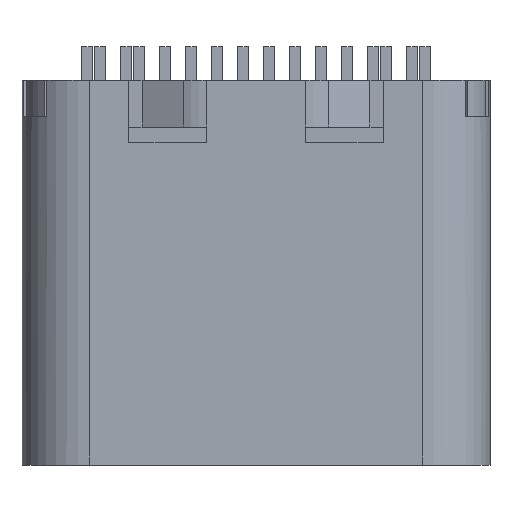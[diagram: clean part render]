
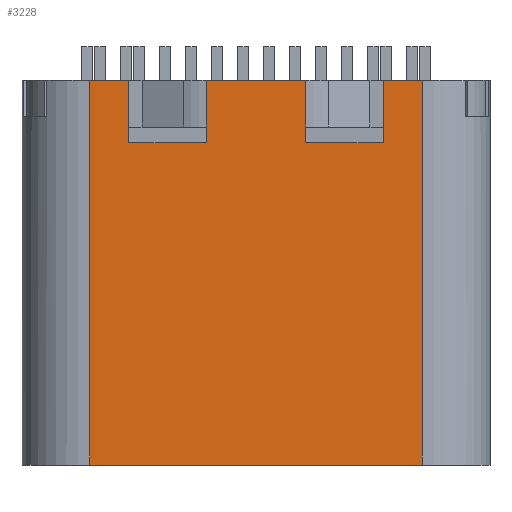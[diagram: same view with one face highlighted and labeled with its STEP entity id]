
A CAD part, top view. The second image highlights one B-rep face of the part: STEP entity #3228.
In plain terms, the highlighted planar face has unit normal (0, 0, 1).
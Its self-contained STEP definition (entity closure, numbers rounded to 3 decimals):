
#2458 = VERTEX_POINT('',#2459);
#2459 = CARTESIAN_POINT('',(-3.2,0.,1.6));
#2466 = EDGE_CURVE('',#2467,#2458,#2469,.T.);
#2467 = VERTEX_POINT('',#2468);
#2468 = CARTESIAN_POINT('',(-2.446,0.,1.6));
#2469 = LINE('',#2470,#2471);
#2470 = CARTESIAN_POINT('',(3.2,0.,1.6));
#2471 = VECTOR('',#2472,1.);
#2472 = DIRECTION('',(-1.,0.,0.));
#2808 = EDGE_CURVE('',#2467,#2809,#2811,.T.);
#2809 = VERTEX_POINT('',#2810);
#2810 = CARTESIAN_POINT('',(-2.446,-1.2,1.6));
#2811 = LINE('',#2812,#2813);
#2812 = CARTESIAN_POINT('',(-2.446,0.,1.6));
#2813 = VECTOR('',#2814,1.);
#2814 = DIRECTION('',(0.,-1.,0.));
#2832 = EDGE_CURVE('',#2809,#2833,#2835,.T.);
#2833 = VERTEX_POINT('',#2834);
#2834 = CARTESIAN_POINT('',(-0.954,-1.2,1.6));
#2835 = LINE('',#2836,#2837);
#2836 = CARTESIAN_POINT('',(1.6,-1.2,1.6));
#2837 = VECTOR('',#2838,1.);
#2838 = DIRECTION('',(1.,0.,0.));
#2889 = VERTEX_POINT('',#2890);
#2890 = CARTESIAN_POINT('',(-0.954,-0.9,1.6));
#2898 = EDGE_CURVE('',#2833,#2889,#2899,.T.);
#2899 = LINE('',#2900,#2901);
#2900 = CARTESIAN_POINT('',(-0.954,0.,1.6));
#2901 = VECTOR('',#2902,1.);
#2902 = DIRECTION('',(0.,1.,0.));
#2939 = VERTEX_POINT('',#2940);
#2940 = CARTESIAN_POINT('',(-0.954,0.,1.6));
#2947 = EDGE_CURVE('',#2948,#2939,#2950,.T.);
#2948 = VERTEX_POINT('',#2949);
#2949 = CARTESIAN_POINT('',(0.954,0.,1.6));
#2950 = LINE('',#2951,#2952);
#2951 = CARTESIAN_POINT('',(3.2,0.,1.6));
#2952 = VECTOR('',#2953,1.);
#2953 = DIRECTION('',(-1.,0.,0.));
#3029 = VERTEX_POINT('',#3030);
#3030 = CARTESIAN_POINT('',(0.954,-0.9,1.6));
#3038 = VERTEX_POINT('',#3039);
#3039 = CARTESIAN_POINT('',(0.954,-1.2,1.6));
#3045 = EDGE_CURVE('',#3038,#3029,#3046,.T.);
#3046 = LINE('',#3047,#3048);
#3047 = CARTESIAN_POINT('',(0.954,0.,1.6));
#3048 = VECTOR('',#3049,1.);
#3049 = DIRECTION('',(0.,1.,0.));
#3059 = EDGE_CURVE('',#3038,#3060,#3062,.T.);
#3060 = VERTEX_POINT('',#3061);
#3061 = CARTESIAN_POINT('',(2.446,-1.2,1.6));
#3062 = LINE('',#3063,#3064);
#3063 = CARTESIAN_POINT('',(1.6,-1.2,1.6));
#3064 = VECTOR('',#3065,1.);
#3065 = DIRECTION('',(1.,0.,0.));
#3084 = VERTEX_POINT('',#3085);
#3085 = CARTESIAN_POINT('',(2.446,0.,1.6));
#3091 = EDGE_CURVE('',#3084,#3060,#3092,.T.);
#3092 = LINE('',#3093,#3094);
#3093 = CARTESIAN_POINT('',(2.446,0.,1.6));
#3094 = VECTOR('',#3095,1.);
#3095 = DIRECTION('',(0.,-1.,0.));
#3108 = EDGE_CURVE('',#3109,#3084,#3111,.T.);
#3109 = VERTEX_POINT('',#3110);
#3110 = CARTESIAN_POINT('',(3.2,0.,1.6));
#3111 = LINE('',#3112,#3113);
#3112 = CARTESIAN_POINT('',(3.2,0.,1.6));
#3113 = VECTOR('',#3114,1.);
#3114 = DIRECTION('',(-1.,0.,0.));
#3228 = ADVANCED_FACE('',(#3229),#3274,.F.);
#3229 = FACE_BOUND('',#3230,.F.);
#3230 = EDGE_LOOP('',(#3231,#3232,#3240,#3248,#3254,#3255,#3256,#3257,
    #3258,#3264,#3265,#3271,#3272,#3273));
#3231 = ORIENTED_EDGE('',*,*,#3108,.F.);
#3232 = ORIENTED_EDGE('',*,*,#3233,.T.);
#3233 = EDGE_CURVE('',#3109,#3234,#3236,.T.);
#3234 = VERTEX_POINT('',#3235);
#3235 = CARTESIAN_POINT('',(3.2,-7.4,1.6));
#3236 = LINE('',#3237,#3238);
#3237 = CARTESIAN_POINT('',(3.2,0.,1.6));
#3238 = VECTOR('',#3239,1.);
#3239 = DIRECTION('',(0.,-1.,0.));
#3240 = ORIENTED_EDGE('',*,*,#3241,.T.);
#3241 = EDGE_CURVE('',#3234,#3242,#3244,.T.);
#3242 = VERTEX_POINT('',#3243);
#3243 = CARTESIAN_POINT('',(-3.2,-7.4,1.6));
#3244 = LINE('',#3245,#3246);
#3245 = CARTESIAN_POINT('',(3.2,-7.4,1.6));
#3246 = VECTOR('',#3247,1.);
#3247 = DIRECTION('',(-1.,0.,0.));
#3248 = ORIENTED_EDGE('',*,*,#3249,.F.);
#3249 = EDGE_CURVE('',#2458,#3242,#3250,.T.);
#3250 = LINE('',#3251,#3252);
#3251 = CARTESIAN_POINT('',(-3.2,0.,1.6));
#3252 = VECTOR('',#3253,1.);
#3253 = DIRECTION('',(0.,-1.,0.));
#3254 = ORIENTED_EDGE('',*,*,#2466,.F.);
#3255 = ORIENTED_EDGE('',*,*,#2808,.T.);
#3256 = ORIENTED_EDGE('',*,*,#2832,.T.);
#3257 = ORIENTED_EDGE('',*,*,#2898,.T.);
#3258 = ORIENTED_EDGE('',*,*,#3259,.T.);
#3259 = EDGE_CURVE('',#2889,#2939,#3260,.T.);
#3260 = LINE('',#3261,#3262);
#3261 = CARTESIAN_POINT('',(-0.954,0.,1.6));
#3262 = VECTOR('',#3263,1.);
#3263 = DIRECTION('',(0.,1.,0.));
#3264 = ORIENTED_EDGE('',*,*,#2947,.F.);
#3265 = ORIENTED_EDGE('',*,*,#3266,.F.);
#3266 = EDGE_CURVE('',#3029,#2948,#3267,.T.);
#3267 = LINE('',#3268,#3269);
#3268 = CARTESIAN_POINT('',(0.954,0.,1.6));
#3269 = VECTOR('',#3270,1.);
#3270 = DIRECTION('',(0.,1.,0.));
#3271 = ORIENTED_EDGE('',*,*,#3045,.F.);
#3272 = ORIENTED_EDGE('',*,*,#3059,.T.);
#3273 = ORIENTED_EDGE('',*,*,#3091,.F.);
#3274 = PLANE('',#3275);
#3275 = AXIS2_PLACEMENT_3D('',#3276,#3277,#3278);
#3276 = CARTESIAN_POINT('',(3.2,0.,1.6));
#3277 = DIRECTION('',(0.,0.,-1.));
#3278 = DIRECTION('',(-1.,0.,0.));
